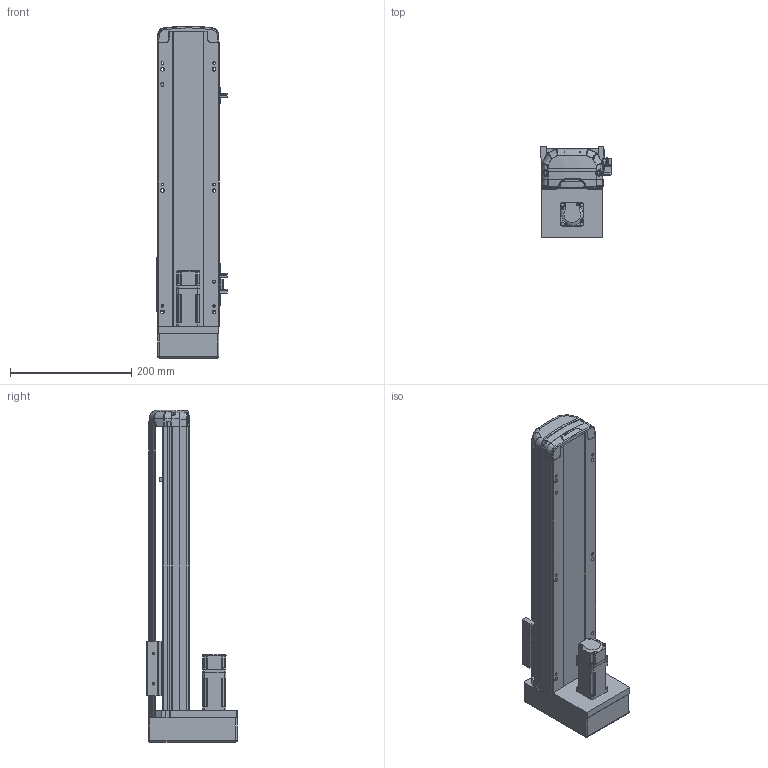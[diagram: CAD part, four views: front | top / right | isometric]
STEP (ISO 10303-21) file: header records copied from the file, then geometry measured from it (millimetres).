
FILE_DESCRIPTION (( 'STEP AP214' ), '1' );
FILE_NAME ('RTH10-XX-300-M-M10-C4.STEP', '2025-10-25T05:43:57', ( 'Microsoft' ), ( 'Microsoft' ), 'SwSTEP 2.0', 'SolidWorks 2018', '' );
FILE_SCHEMA (( 'AUTOMOTIVE_DESIGN' ));
Length unit declared in the file: millimetre
Products named in the file (10): N_RTH12-M-011P-臏倰第菁釱^RTH10-XX-100-M-M10-C4; N_OMRON EE-SX672 传感器^RTH10-XX-100-M-M10-C4; N_RTH12-GY-001P^RTH10-XX-100-M-M10-C4; N_RTH12-M-007P-奻裔^RTH10-XX-100-M-M10-C4; N_RTH13-L-012覜茼え俋离^RTH10-XX-100-M-M10-C4; RTH10-XX-300-M-M10-C4; N_P10^RTH10-XX-100-M-M10-C4; N_RTH12-M-018-裔赽^RTH10-XX-100-M-M10-C4; N_RTH12-GY-004-賑釱^RTH10-XX-100-M-M10-C4; N_RTH12-M-008-萇儂啣^RTH10-XX-100-M-M10-C4
Assembly tree (11 placements, depth 2):
  RTH10-XX-300-M-M10-C4
    N_RTH12-M-011P-臏倰第菁釱^RTH10-XX-100-M-M10-C4
    N_RTH13-L-012覜茼え俋离^RTH10-XX-100-M-M10-C4
    N_OMRON EE-SX672 传感器^RTH10-XX-100-M-M10-C4  x3
    N_P10^RTH10-XX-100-M-M10-C4
    N_RTH12-M-007P-奻裔^RTH10-XX-100-M-M10-C4
    N_RTH12-M-008-萇儂啣^RTH10-XX-100-M-M10-C4
    N_RTH12-M-018-裔赽^RTH10-XX-100-M-M10-C4
    N_RTH12-GY-004-賑釱^RTH10-XX-100-M-M10-C4
    N_RTH12-GY-001P^RTH10-XX-100-M-M10-C4
Bounding box: 116.5 x 149 x 547.31 mm (x, y, z)
Volume: 2843853 mm3; surface area: 436374.7 mm2
Topology: 10 solids, 12 shells, 1893 faces, 5263 edges, 3451 vertices
Faces by surface type: plane 947, bspline 472, cylinder 439, cone 29, sphere 4, torus 2
Entity records: 56543 total; most frequent: CARTESIAN_POINT 22727, ORIENTED_EDGE 7598, DIRECTION 5781, EDGE_CURVE 3805, VERTEX_POINT 2495, LINE 2019, VECTOR 2019, AXIS2_PLACEMENT_3D 1881
